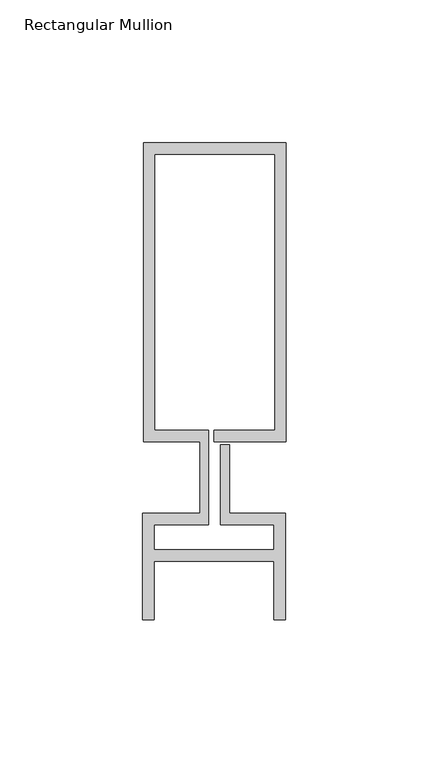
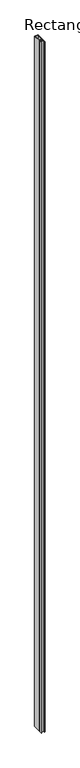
"""IFC4 building model written with IfcOpenShell, lengths in millimetres: member geometry, Rectangular Mullion : Reynaers_CW-50_Mullion-Transom_Vertical_104.5mm_Facecap-03."""

from ifc_helpers import new_model, si_unit, frame, origin, place, context, project, spatial, polyline, outline, extrude, source, transform, mapped, element, save


def rectangular_mullion_eb12b059(model_context):
    return source(origin(), model_context, "Body", "SweptSolid", [
        extrude(outline(polyline([(-24.8004059, 117.0), (25.1995941, 117.0), (25.1995941, 12.5), (0.0, 12.5), (0.0, 16.5), (21.1995941, 16.5), (21.1995941, 113.0), (-20.8004059, 113.0), (-20.8004059, 16.5), (-1.9004059, 16.5), (-1.9004059, -16.5), (-20.994845, -16.5), (-20.994845, -25.3268728), (20.994845, -25.3268728), (20.994845, -16.5), (2.2995941, -16.5), (2.2995941, 11.5), (5.2995941, 11.5), (5.2995941, -12.5), (24.994845, -12.5), (24.994845, -49.8), (20.994845, -49.8), (20.994845, -29.3268728), (-20.994845, -29.3268728), (-20.994845, -49.8), (-24.994845, -49.8), (-24.994845, -12.5), (-4.9004059, -12.5), (-4.9004059, 12.5), (-24.8004059, 12.5), (-24.8004059, 117.0)])), frame((0.0, 0.0, -10400.0), z_axis=(0.0, 0.0, 1.0), x_axis=(1.0, 0.0, 0.0)), (0.0, 0.0, 1.0), 10400.0),
    ])


if __name__ == "__main__":
    model = new_model("IFC4")
    model_context = context("Model", 3, world=origin())
    ifc_project = project(units=[si_unit("LENGTHUNIT", "METRE", prefix="MILLI")], contexts=[model_context])
    site = spatial("IfcSite", under=ifc_project)
    building = spatial("IfcBuilding", under=site)
    placement = place(None, origin())
    rectangular_mullion_shape = rectangular_mullion_eb12b059(model_context)
    element("IfcMember", 1, ObjectType="Rectangular Mullion : Reynaers_CW-50_Mullion-Transom_Vertical_104.5mm_Facecap-03", at=placement, inside=building, context=model_context, shape_type="MappedRepresentation", body=[
        mapped(rectangular_mullion_shape, transform((0.0, 0.0, 0.0), x_axis=(1.0, 0.0, 0.0), y_axis=(0.0, 1.0, 0.0), z_axis=(0.0, 0.0, 1.0))),
    ])
    save(model, "model.ifc")
